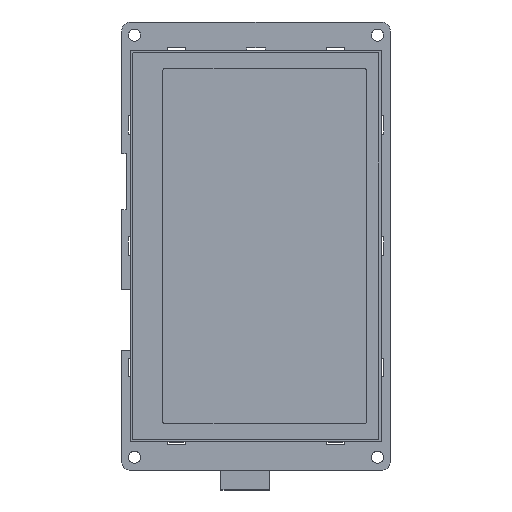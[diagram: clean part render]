
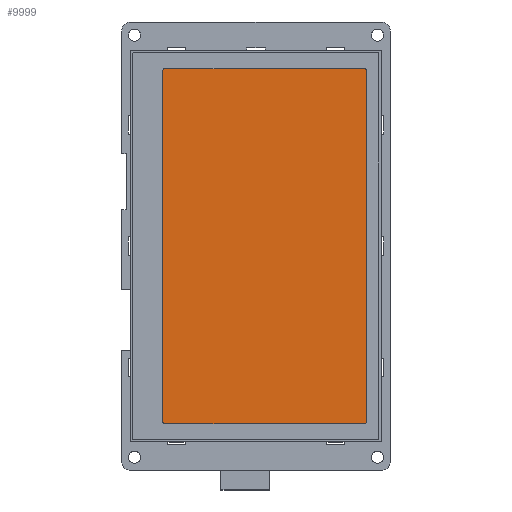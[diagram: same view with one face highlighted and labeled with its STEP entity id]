
A CAD part, top view. The second image highlights one B-rep face of the part: STEP entity #9999.
In plain terms, the highlighted planar face has unit normal (0, 0, 1).
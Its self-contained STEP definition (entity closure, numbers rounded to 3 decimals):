
#3014=CARTESIAN_POINT('',(29.554,47.765,8.225));
#3015=DIRECTION('',(0.,0.,1.));
#3016=DIRECTION('',(1.,0.,0.));
#3017=AXIS2_PLACEMENT_3D('',#3014,#3015,#3016);
#3019=DIRECTION('',(0.,1.,0.));
#3020=VECTOR('',#3019,95.54);
#3021=CARTESIAN_POINT('',(30.054,-47.775,8.225));
#3022=LINE('',#3021,#3020);
#3023=CARTESIAN_POINT('',(29.554,-47.775,8.225));
#3024=DIRECTION('',(0.,0.,1.));
#3025=DIRECTION('',(0.,-1.,0.));
#3026=AXIS2_PLACEMENT_3D('',#3023,#3024,#3025);
#3028=DIRECTION('',(1.,0.,0.));
#3029=VECTOR('',#3028,54.36);
#3030=CARTESIAN_POINT('',(-24.806,-48.275,8.225));
#3031=LINE('',#3030,#3029);
#3032=CARTESIAN_POINT('',(-24.806,-47.775,8.225));
#3033=DIRECTION('',(0.,0.,1.));
#3034=DIRECTION('',(-1.,0.,0.));
#3035=AXIS2_PLACEMENT_3D('',#3032,#3033,#3034);
#3037=DIRECTION('',(0.,-1.,0.));
#3038=VECTOR('',#3037,95.54);
#3039=CARTESIAN_POINT('',(-25.306,47.765,8.225));
#3040=LINE('',#3039,#3038);
#3041=CARTESIAN_POINT('',(-24.806,47.765,8.225));
#3042=DIRECTION('',(0.,0.,1.));
#3043=DIRECTION('',(0.,1.,0.));
#3044=AXIS2_PLACEMENT_3D('',#3041,#3042,#3043);
#3046=DIRECTION('',(-1.,0.,0.));
#3047=VECTOR('',#3046,54.36);
#3048=CARTESIAN_POINT('',(29.554,48.265,8.225));
#3049=LINE('',#3048,#3047);
#4820=CARTESIAN_POINT('',(30.054,47.765,8.225));
#4821=CARTESIAN_POINT('',(29.554,48.265,8.225));
#4822=VERTEX_POINT('',#4820);
#4823=VERTEX_POINT('',#4821);
#4824=CARTESIAN_POINT('',(-24.806,48.265,8.225));
#4825=VERTEX_POINT('',#4824);
#4826=CARTESIAN_POINT('',(-25.306,47.765,8.225));
#4827=VERTEX_POINT('',#4826);
#4828=CARTESIAN_POINT('',(-25.306,-47.775,8.225));
#4829=VERTEX_POINT('',#4828);
#4830=CARTESIAN_POINT('',(-24.806,-48.275,8.225));
#4831=VERTEX_POINT('',#4830);
#4832=CARTESIAN_POINT('',(29.554,-48.275,8.225));
#4833=VERTEX_POINT('',#4832);
#4834=CARTESIAN_POINT('',(30.054,-47.775,8.225));
#4835=VERTEX_POINT('',#4834);
#9984=CARTESIAN_POINT('',(-33.566,-52.305,8.225));
#9985=DIRECTION('',(0.,0.,1.));
#9986=DIRECTION('',(0.,-1.,0.));
#9987=AXIS2_PLACEMENT_3D('',#9984,#9985,#9986);
#9988=PLANE('',#9987);
#9989=ORIENTED_EDGE('',*,*,#9880,.F.);
#9990=ORIENTED_EDGE('',*,*,#9895,.F.);
#9991=ORIENTED_EDGE('',*,*,#9909,.F.);
#9992=ORIENTED_EDGE('',*,*,#9923,.F.);
#9993=ORIENTED_EDGE('',*,*,#9937,.F.);
#9994=ORIENTED_EDGE('',*,*,#9951,.F.);
#9995=ORIENTED_EDGE('',*,*,#9965,.F.);
#9996=ORIENTED_EDGE('',*,*,#9978,.F.);
#9997=EDGE_LOOP('',(#9989,#9990,#9991,#9992,#9993,#9994,#9995,#9996));
#9998=FACE_OUTER_BOUND('',#9997,.F.);
#3018=CIRCLE('',#3017,0.5);
#3027=CIRCLE('',#3026,0.5);
#3036=CIRCLE('',#3035,0.5);
#3045=CIRCLE('',#3044,0.5);
#9880=EDGE_CURVE('',#4822,#4823,#3018,.T.);
#9895=EDGE_CURVE('',#4835,#4822,#3022,.T.);
#9909=EDGE_CURVE('',#4833,#4835,#3027,.T.);
#9923=EDGE_CURVE('',#4831,#4833,#3031,.T.);
#9937=EDGE_CURVE('',#4829,#4831,#3036,.T.);
#9951=EDGE_CURVE('',#4827,#4829,#3040,.T.);
#9965=EDGE_CURVE('',#4825,#4827,#3045,.T.);
#9978=EDGE_CURVE('',#4823,#4825,#3049,.T.);
#9999=ADVANCED_FACE('',(#9998),#9988,.T.);
